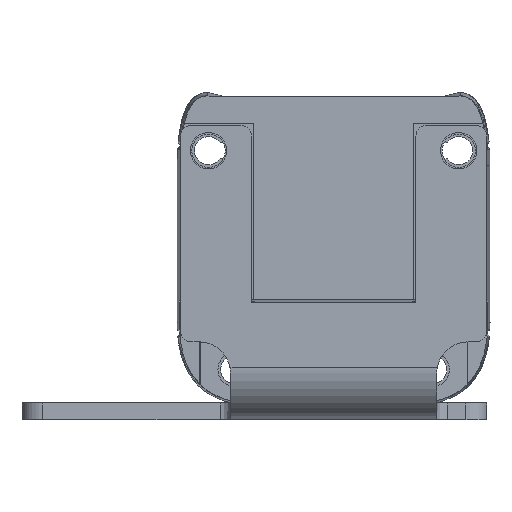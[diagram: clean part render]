
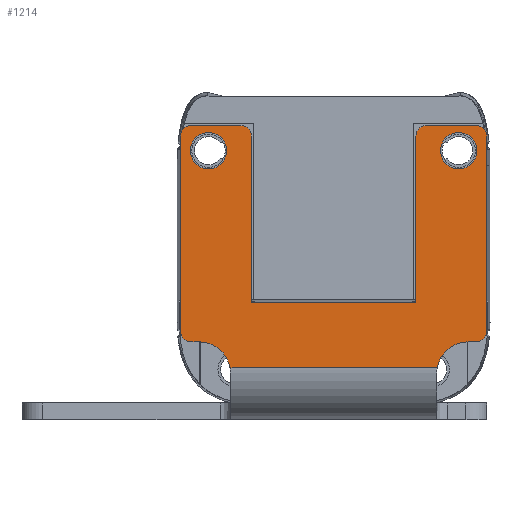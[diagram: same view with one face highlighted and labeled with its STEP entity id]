
A CAD part, front view. The second image highlights one B-rep face of the part: STEP entity #1214.
In plain terms, the highlighted planar face has unit normal (0, -1, 0).
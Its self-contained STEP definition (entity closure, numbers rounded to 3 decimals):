
#1214=ADVANCED_FACE('',(#1904,#1905,#1906),#1492,.T.);
#1492=PLANE('',#9447);
#1797=CIRCLE('',#9437,3.);
#1798=CIRCLE('',#9438,1.);
#1799=CIRCLE('',#9439,1.);
#1800=CIRCLE('',#9440,1.);
#1801=CIRCLE('',#9441,1.);
#1802=CIRCLE('',#9442,1.);
#1803=CIRCLE('',#9443,1.);
#1804=CIRCLE('',#9444,3.);
#1805=CIRCLE('',#9445,1.75);
#1806=CIRCLE('',#9446,1.75);
#1904=FACE_BOUND('',#2370,.T.);
#1905=FACE_BOUND('',#2371,.T.);
#1906=FACE_BOUND('',#2372,.T.);
#2370=EDGE_LOOP('',(#4747,#4748,#4749,#4750,#4751,#4752,#4753,#4754,#4755,
#4756,#4757,#4758,#4759,#4760,#4761,#4762,#4763,#4764));
#2371=EDGE_LOOP('',(#4765));
#2372=EDGE_LOOP('',(#4766));
#4747=ORIENTED_EDGE('',*,*,#6984,.T.);
#4748=ORIENTED_EDGE('',*,*,#6985,.F.);
#4749=ORIENTED_EDGE('',*,*,#6986,.T.);
#4750=ORIENTED_EDGE('',*,*,#6987,.T.);
#4751=ORIENTED_EDGE('',*,*,#6988,.T.);
#4752=ORIENTED_EDGE('',*,*,#6989,.T.);
#4753=ORIENTED_EDGE('',*,*,#6990,.T.);
#4754=ORIENTED_EDGE('',*,*,#6991,.F.);
#4755=ORIENTED_EDGE('',*,*,#6992,.F.);
#4756=ORIENTED_EDGE('',*,*,#6993,.T.);
#4757=ORIENTED_EDGE('',*,*,#6994,.T.);
#4758=ORIENTED_EDGE('',*,*,#6995,.F.);
#4759=ORIENTED_EDGE('',*,*,#6996,.T.);
#4760=ORIENTED_EDGE('',*,*,#6997,.F.);
#4761=ORIENTED_EDGE('',*,*,#6998,.T.);
#4762=ORIENTED_EDGE('',*,*,#6999,.T.);
#4763=ORIENTED_EDGE('',*,*,#7000,.T.);
#4764=ORIENTED_EDGE('',*,*,#7001,.T.);
#4765=ORIENTED_EDGE('',*,*,#7002,.F.);
#4766=ORIENTED_EDGE('',*,*,#7003,.T.);
#5758=VERTEX_POINT('',#15442);
#5759=VERTEX_POINT('',#15443);
#5760=VERTEX_POINT('',#15445);
#5761=VERTEX_POINT('',#15447);
#5762=VERTEX_POINT('',#15449);
#5763=VERTEX_POINT('',#15451);
#5764=VERTEX_POINT('',#15453);
#5765=VERTEX_POINT('',#15455);
#5766=VERTEX_POINT('',#15457);
#5767=VERTEX_POINT('',#15459);
#5768=VERTEX_POINT('',#15461);
#5769=VERTEX_POINT('',#15463);
#5770=VERTEX_POINT('',#15465);
#5771=VERTEX_POINT('',#15467);
#5772=VERTEX_POINT('',#15469);
#5773=VERTEX_POINT('',#15471);
#5774=VERTEX_POINT('',#15473);
#5775=VERTEX_POINT('',#15475);
#5776=VERTEX_POINT('',#15478);
#5777=VERTEX_POINT('',#15480);
#6984=EDGE_CURVE('',#5758,#5759,#1797,.T.);
#6985=EDGE_CURVE('',#5760,#5759,#7863,.T.);
#6986=EDGE_CURVE('',#5760,#5761,#1798,.T.);
#6987=EDGE_CURVE('',#5761,#5762,#7864,.T.);
#6988=EDGE_CURVE('',#5762,#5763,#1799,.T.);
#6989=EDGE_CURVE('',#5763,#5764,#7865,.T.);
#6990=EDGE_CURVE('',#5764,#5765,#1800,.T.);
#6991=EDGE_CURVE('',#5766,#5765,#7866,.T.);
#6992=EDGE_CURVE('',#5767,#5766,#7867,.T.);
#6993=EDGE_CURVE('',#5767,#5768,#7868,.T.);
#6994=EDGE_CURVE('',#5768,#5769,#1801,.T.);
#6995=EDGE_CURVE('',#5770,#5769,#7869,.T.);
#6996=EDGE_CURVE('',#5770,#5771,#1802,.T.);
#6997=EDGE_CURVE('',#5772,#5771,#7870,.T.);
#6998=EDGE_CURVE('',#5772,#5773,#1803,.T.);
#6999=EDGE_CURVE('',#5773,#5774,#7871,.T.);
#7000=EDGE_CURVE('',#5774,#5775,#1804,.T.);
#7001=EDGE_CURVE('',#5775,#5758,#7872,.T.);
#7002=EDGE_CURVE('',#5776,#5776,#1805,.T.);
#7003=EDGE_CURVE('',#5777,#5777,#1806,.T.);
#7863=LINE('',#15444,#8719);
#7864=LINE('',#15448,#8720);
#7865=LINE('',#15452,#8721);
#7866=LINE('',#15456,#8722);
#7867=LINE('',#15458,#8723);
#7868=LINE('',#15460,#8724);
#7869=LINE('',#15464,#8725);
#7870=LINE('',#15468,#8726);
#7871=LINE('',#15472,#8727);
#7872=LINE('',#15476,#8728);
#8719=VECTOR('',#11638,1.);
#8720=VECTOR('',#11641,1.);
#8721=VECTOR('',#11644,1.);
#8722=VECTOR('',#11647,1.);
#8723=VECTOR('',#11648,1.);
#8724=VECTOR('',#11649,1.);
#8725=VECTOR('',#11652,1.);
#8726=VECTOR('',#11655,1.);
#8727=VECTOR('',#11658,1.);
#8728=VECTOR('',#11661,1.);
#9437=AXIS2_PLACEMENT_3D('',#15441,#11636,#11637);
#9438=AXIS2_PLACEMENT_3D('',#15446,#11639,#11640);
#9439=AXIS2_PLACEMENT_3D('',#15450,#11642,#11643);
#9440=AXIS2_PLACEMENT_3D('',#15454,#11645,#11646);
#9441=AXIS2_PLACEMENT_3D('',#15462,#11650,#11651);
#9442=AXIS2_PLACEMENT_3D('',#15466,#11653,#11654);
#9443=AXIS2_PLACEMENT_3D('',#15470,#11656,#11657);
#9444=AXIS2_PLACEMENT_3D('',#15474,#11659,#11660);
#9445=AXIS2_PLACEMENT_3D('',#15477,#11662,#11663);
#9446=AXIS2_PLACEMENT_3D('',#15479,#11664,#11665);
#9447=AXIS2_PLACEMENT_3D('',#15481,#11666,#11667);
#11636=DIRECTION('',(0.,1.,0.));
#11637=DIRECTION('',(0.,0.,1.));
#11638=DIRECTION('',(-1.,0.,0.));
#11639=DIRECTION('',(0.,-1.,0.));
#11640=DIRECTION('',(0.,0.,1.));
#11641=DIRECTION('',(0.,0.,1.));
#11642=DIRECTION('',(0.,-1.,0.));
#11643=DIRECTION('',(0.,0.,-1.));
#11644=DIRECTION('',(-1.,0.,0.));
#11645=DIRECTION('',(0.,-1.,0.));
#11646=DIRECTION('',(0.,0.,-1.));
#11647=DIRECTION('',(0.,0.,1.));
#11648=DIRECTION('',(1.,0.,0.));
#11649=DIRECTION('',(0.,0.,1.));
#11650=DIRECTION('',(0.,-1.,0.));
#11651=DIRECTION('',(0.,0.,1.));
#11652=DIRECTION('',(1.,0.,0.));
#11653=DIRECTION('',(0.,-1.,0.));
#11654=DIRECTION('',(0.,0.,1.));
#11655=DIRECTION('',(0.,0.,1.));
#11656=DIRECTION('',(0.,-1.,0.));
#11657=DIRECTION('',(0.,0.,1.));
#11658=DIRECTION('',(1.,0.,0.));
#11659=DIRECTION('',(0.,1.,0.));
#11660=DIRECTION('',(0.,0.,1.));
#11661=DIRECTION('',(1.,0.,0.));
#11662=DIRECTION('',(0.,-1.,0.));
#11663=DIRECTION('',(0.,0.,1.));
#11664=DIRECTION('',(0.,1.,0.));
#11665=DIRECTION('',(0.,0.,-1.));
#11666=DIRECTION('',(0.,-1.,0.));
#11667=DIRECTION('',(-1.,0.,0.));
#15441=CARTESIAN_POINT('',(12.89,105.8,-139.533));
#15442=CARTESIAN_POINT('',(9.939,105.8,-138.994));
#15443=CARTESIAN_POINT('',(12.89,105.8,-136.533));
#15444=CARTESIAN_POINT('',(-7.89,105.8,-136.533));
#15445=CARTESIAN_POINT('',(13.69,105.8,-136.533));
#15446=CARTESIAN_POINT('',(13.69,105.8,-135.533));
#15447=CARTESIAN_POINT('',(14.69,105.8,-135.533));
#15448=CARTESIAN_POINT('',(14.69,105.8,-115.6));
#15449=CARTESIAN_POINT('',(14.69,105.8,-116.8));
#15450=CARTESIAN_POINT('',(13.69,105.8,-116.8));
#15451=CARTESIAN_POINT('',(13.69,105.8,-115.8));
#15452=CARTESIAN_POINT('',(7.89,105.8,-115.8));
#15453=CARTESIAN_POINT('',(8.89,105.8,-115.8));
#15454=CARTESIAN_POINT('',(8.89,105.8,-116.8));
#15455=CARTESIAN_POINT('',(7.89,105.8,-116.8));
#15456=CARTESIAN_POINT('',(7.89,105.8,-115.6));
#15457=CARTESIAN_POINT('',(7.89,105.8,-132.733));
#15458=CARTESIAN_POINT('',(-9.89,105.8,-132.733));
#15459=CARTESIAN_POINT('',(-7.89,105.8,-132.733));
#15460=CARTESIAN_POINT('',(-7.89,105.8,-115.6));
#15461=CARTESIAN_POINT('',(-7.89,105.8,-116.8));
#15462=CARTESIAN_POINT('',(-8.89,105.8,-116.8));
#15463=CARTESIAN_POINT('',(-8.89,105.8,-115.8));
#15464=CARTESIAN_POINT('',(-7.89,105.8,-115.8));
#15465=CARTESIAN_POINT('',(-13.69,105.8,-115.8));
#15466=CARTESIAN_POINT('',(-13.69,105.8,-116.8));
#15467=CARTESIAN_POINT('',(-14.69,105.8,-116.8));
#15468=CARTESIAN_POINT('',(-14.69,105.8,-115.6));
#15469=CARTESIAN_POINT('',(-14.69,105.8,-135.533));
#15470=CARTESIAN_POINT('',(-13.69,105.8,-135.533));
#15471=CARTESIAN_POINT('',(-13.69,105.8,-136.533));
#15472=CARTESIAN_POINT('',(-7.89,105.8,-136.533));
#15473=CARTESIAN_POINT('',(-12.89,105.8,-136.533));
#15474=CARTESIAN_POINT('',(-12.89,105.8,-139.533));
#15475=CARTESIAN_POINT('',(-9.939,105.8,-138.994));
#15476=CARTESIAN_POINT('',(-9.89,105.8,-138.994));
#15477=CARTESIAN_POINT('',(-12.,105.8,-118.2));
#15478=CARTESIAN_POINT('',(-12.,105.8,-116.45));
#15479=CARTESIAN_POINT('',(12.,105.8,-118.2));
#15480=CARTESIAN_POINT('',(12.,105.8,-119.95));
#15481=CARTESIAN_POINT('',(-9.89,105.8,-142.394));
